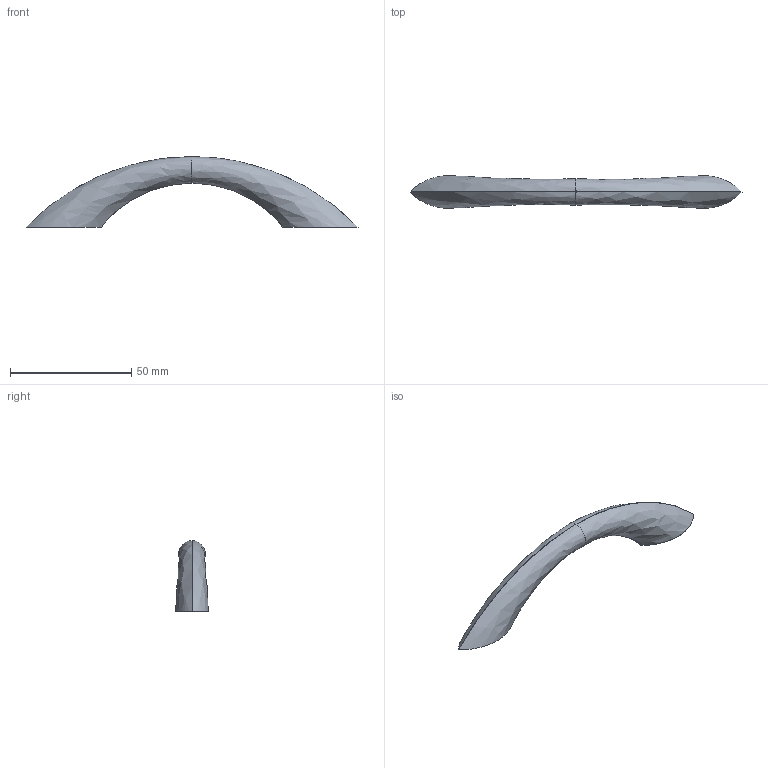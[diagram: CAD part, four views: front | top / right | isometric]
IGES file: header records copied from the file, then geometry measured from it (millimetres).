
Start section: C
Global section: file name: 0050-137 .igs; native system: By Siemens PLM Incorporated; preprocessor: XPlus GENERIC/IGES 16.0.42; author: Author; organization: Title; date: 20231226.144533; units: millimetre
Bounding box: 137 x 13.5 x 29.2 mm (x, y, z)
Surface area: 6055 mm2 (no closed solid volume)
Topology: 0 solids, 0 shells, 18 faces, 124 edges, 124 vertices
Faces by surface type: bspline 18
